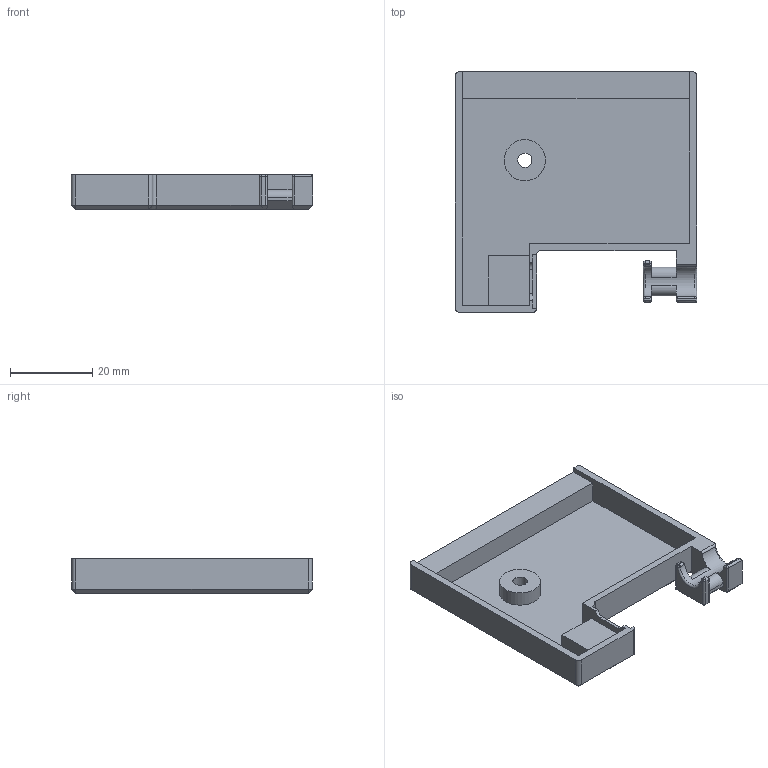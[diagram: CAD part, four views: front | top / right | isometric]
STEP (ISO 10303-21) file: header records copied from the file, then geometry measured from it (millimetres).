
FILE_DESCRIPTION(('FreeCAD Model'),'2;1');
FILE_NAME('Open CASCADE Shape Model','2024-01-26T12:32:02',(''),(''), 'Open CASCADE STEP processor 7.6','FreeCAD','Unknown');
FILE_SCHEMA(('AUTOMOTIVE_DESIGN { 1 0 10303 214 1 1 1 1 }'));
Length unit declared in the file: millimetre
Products named in the file (1): LowerPart
Bounding box: 58.7 x 58.55 x 8.35 mm (x, y, z)
Volume: 10073.6 mm3; surface area: 9445.6 mm2
Topology: 1 solids, 1 shells, 107 faces, 287 edges, 171 vertices
Faces by surface type: plane 61, cylinder 30, sphere 8, cone 6, torus 2
Full cylindrical faces by diameter (mm): 3.5 x1, 10 x1
Entity records: 6990 total; most frequent: CARTESIAN_POINT 1404, DIRECTION 1065, LINE 685, VECTOR 685, ORIENTED_EDGE 550, PCURVE 550, DEFINITIONAL_REPRESENTATION 550, EDGE_CURVE 275
